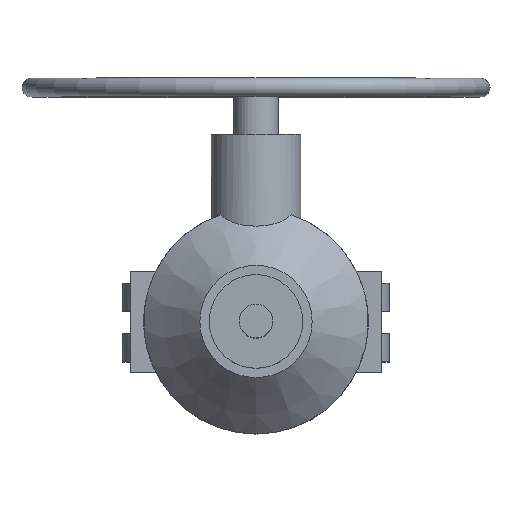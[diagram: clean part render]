
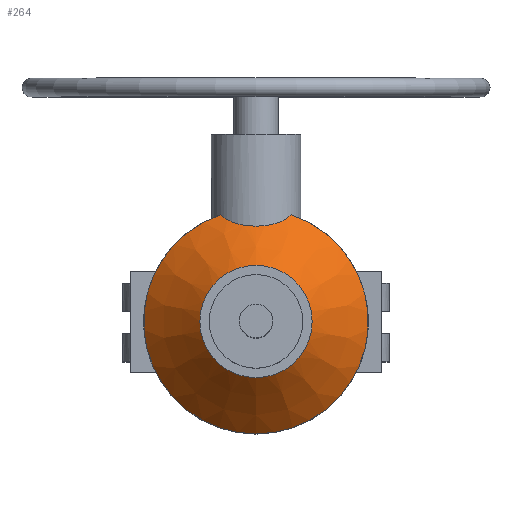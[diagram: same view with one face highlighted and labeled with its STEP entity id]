
A CAD part, top view. The second image highlights one B-rep face of the part: STEP entity #264.
In plain terms, the highlighted conical face has half-angle 45 degrees and reference radius 45 mm.
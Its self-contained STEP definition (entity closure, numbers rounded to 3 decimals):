
#264=ADVANCED_FACE('',(#1300,#1302),#1304,.T.);
#1300=FACE_BOUND('',#1301,.T.);
#1301=EDGE_LOOP('',(#2153,#2154,#2155,#2156));
#1302=FACE_OUTER_BOUND('',#1303,.T.);
#1303=EDGE_LOOP('',(#2157));
#1304=CONICAL_SURFACE('',#1305,45.,0.785);
#1305=AXIS2_PLACEMENT_3D('',#1306,#1307,#1308);
#1306=CARTESIAN_POINT('',(0.,0.,345.));
#1307=DIRECTION('',(0.,0.,-1.));
#1308=DIRECTION('',(0.,-1.,0.));
#2153=ORIENTED_EDGE('',*,*,#2664,.F.);
#2154=ORIENTED_EDGE('',*,*,#2665,.F.);
#2155=ORIENTED_EDGE('',*,*,#2666,.F.);
#2156=ORIENTED_EDGE('',*,*,#2667,.F.);
#2157=ORIENTED_EDGE('',*,*,#2649,.T.);
#2649=EDGE_CURVE('',#2965,#2965,#2966,.T.);
#2664=EDGE_CURVE('',#2991,#2992,#2993,.F.);
#2665=EDGE_CURVE('',#2994,#2991,#2995,.F.);
#2666=EDGE_CURVE('',#2996,#2994,#2997,.T.);
#2667=EDGE_CURVE('',#2992,#2996,#2998,.T.);
#2965=VERTEX_POINT('',#3544);
#2966=CIRCLE('',#3545,30.);
#2991=VERTEX_POINT('',#3603);
#2992=VERTEX_POINT('',#3604);
#2993=B_SPLINE_CURVE_WITH_KNOTS('',3,
(#3605,#3606,#3607,#3608,#3609,#3610,#3611,#3612,#3613,#3614,#3615,#3616,#3617,#3618,
#3619,#3620,#3621,#3622,#3623,#3624,#3625,#3626,#3627,#3628,#3629,#3630,#3631,#3632,
#3633,#3634,#3635,#3636,#3637,#3638,#3639,#3640,#3641,#3642,#3643,#3644,#3645,#3646,
#3647,#3648),
.UNSPECIFIED.,.F.,.F.,
(4,1,1,1,1,1,1,1,1,1,1,1,1,1,1,1,1,1,1,1,1,1,1,1,1,1,1,1,1,1,1,1,1,1,1,1,1,1,1,1,
1,4),
(0.,0.02,0.041,0.061,0.082,
0.102,0.122,0.143,0.163,0.183,
0.204,0.224,0.245,0.266,0.287,
0.308,0.329,0.351,0.375,0.401,
0.441,0.481,0.521,0.551,0.581,
0.621,0.661,0.701,0.735,0.766,
0.794,0.814,0.834,0.853,0.873,
0.892,0.91,0.929,0.947,0.965,
0.982,1.),
.UNSPECIFIED.);
#2994=VERTEX_POINT('',#3649);
#2995=B_SPLINE_CURVE_WITH_KNOTS('',3,
(#3650,#3651,#3652,#3653,#3654,#3655,#3656,#3657,#3658,#3659,#3660,#3661,#3662,#3663,
#3664,#3665,#3666,#3667,#3668,#3669,#3670,#3671,#3672,#3673,#3674,#3675,#3676,#3677,
#3678,#3679,#3680,#3681,#3682,#3683,#3684,#3685,#3686,#3687,#3688,#3689,#3690,#3691,
#3692),
.UNSPECIFIED.,.F.,.F.,
(4,1,1,1,1,1,1,1,1,1,1,1,1,1,1,1,1,1,1,1,1,1,1,1,1,1,1,1,1,1,1,1,1,1,1,1,1,1,1,1,
4),
(0.,0.024,0.047,0.071,0.095,
0.118,0.145,0.173,0.216,0.258,
0.3,0.337,0.371,0.403,0.43,
0.459,0.501,0.543,0.584,0.62,
0.652,0.681,0.703,0.724,0.744,
0.764,0.783,0.802,0.82,0.838,
0.855,0.871,0.887,0.903,0.918,
0.932,0.946,0.96,0.974,0.987,
1.),
.UNSPECIFIED.);
#2996=VERTEX_POINT('',#3693);
#2997=CIRCLE('',#3694,60.);
#2998=CIRCLE('',#3698,60.);
#3544=CARTESIAN_POINT('',(0.,-30.,360.));
#3545=AXIS2_PLACEMENT_3D('',#3546,#3547,#3548);
#3546=CARTESIAN_POINT('',(0.,0.,360.));
#3547=DIRECTION('',(0.,0.,-1.));
#3548=DIRECTION('',(0.,-1.,0.));
#3603=CARTESIAN_POINT('',(0.,51.,339.));
#3604=CARTESIAN_POINT('',(18.735,57.,330.));
#3605=CARTESIAN_POINT('',(18.735,57.,330.));
#3606=CARTESIAN_POINT('',(18.653,56.919,330.102));
#3607=CARTESIAN_POINT('',(18.487,56.759,330.306));
#3608=CARTESIAN_POINT('',(18.232,56.523,330.61));
#3609=CARTESIAN_POINT('',(17.97,56.291,330.91));
#3610=CARTESIAN_POINT('',(17.702,56.064,331.208));
#3611=CARTESIAN_POINT('',(17.428,55.841,331.502));
#3612=CARTESIAN_POINT('',(17.147,55.623,331.794));
#3613=CARTESIAN_POINT('',(16.859,55.409,332.083));
#3614=CARTESIAN_POINT('',(16.564,55.199,332.369));
#3615=CARTESIAN_POINT('',(16.262,54.994,332.652));
#3616=CARTESIAN_POINT('',(15.953,54.793,332.932));
#3617=CARTESIAN_POINT('',(15.636,54.596,333.21));
#3618=CARTESIAN_POINT('',(15.31,54.403,333.484));
#3619=CARTESIAN_POINT('',(14.976,54.214,333.756));
#3620=CARTESIAN_POINT('',(14.633,54.029,334.025));
#3621=CARTESIAN_POINT('',(14.281,53.848,334.291));
#3622=CARTESIAN_POINT('',(13.919,53.672,334.553));
#3623=CARTESIAN_POINT('',(13.534,53.493,334.822));
#3624=CARTESIAN_POINT('',(13.109,53.306,335.106));
#3625=CARTESIAN_POINT('',(12.567,53.083,335.451));
#3626=CARTESIAN_POINT('',(11.915,52.835,335.84));
#3627=CARTESIAN_POINT('',(11.159,52.577,336.254));
#3628=CARTESIAN_POINT('',(10.444,52.357,336.613));
#3629=CARTESIAN_POINT('',(9.777,52.171,336.922));
#3630=CARTESIAN_POINT('',(9.098,51.998,337.213));
#3631=CARTESIAN_POINT('',(8.34,51.825,337.51));
#3632=CARTESIAN_POINT('',(7.502,51.657,337.803));
#3633=CARTESIAN_POINT('',(6.695,51.517,338.052));
#3634=CARTESIAN_POINT('',(5.942,51.403,338.257));
#3635=CARTESIAN_POINT('',(5.267,51.314,338.418));
#3636=CARTESIAN_POINT('',(4.687,51.247,338.54));
#3637=CARTESIAN_POINT('',(4.184,51.196,338.634));
#3638=CARTESIAN_POINT('',(3.741,51.156,338.708));
#3639=CARTESIAN_POINT('',(3.304,51.121,338.773));
#3640=CARTESIAN_POINT('',(2.873,51.091,338.829));
#3641=CARTESIAN_POINT('',(2.447,51.066,338.876));
#3642=CARTESIAN_POINT('',(2.028,51.045,338.915));
#3643=CARTESIAN_POINT('',(1.614,51.028,338.947));
#3644=CARTESIAN_POINT('',(1.206,51.015,338.971));
#3645=CARTESIAN_POINT('',(0.8,51.006,338.988));
#3646=CARTESIAN_POINT('',(0.399,51.001,338.998));
#3647=CARTESIAN_POINT('',(0.133,51.,339.));
#3648=CARTESIAN_POINT('',(0.,51.,339.));
#3649=CARTESIAN_POINT('',(-18.735,57.,330.));
#3650=CARTESIAN_POINT('',(0.,51.,339.));
#3651=CARTESIAN_POINT('',(-0.179,51.,339.));
#3652=CARTESIAN_POINT('',(-0.536,51.002,338.996));
#3653=CARTESIAN_POINT('',(-1.071,51.012,338.978));
#3654=CARTESIAN_POINT('',(-1.604,51.027,338.948));
#3655=CARTESIAN_POINT('',(-2.137,51.05,338.907));
#3656=CARTESIAN_POINT('',(-2.688,51.079,338.851));
#3657=CARTESIAN_POINT('',(-3.277,51.118,338.778));
#3658=CARTESIAN_POINT('',(-4.,51.177,338.669));
#3659=CARTESIAN_POINT('',(-4.836,51.261,338.514));
#3660=CARTESIAN_POINT('',(-5.759,51.376,338.305));
#3661=CARTESIAN_POINT('',(-6.634,51.506,338.071));
#3662=CARTESIAN_POINT('',(-7.442,51.647,337.822));
#3663=CARTESIAN_POINT('',(-8.165,51.789,337.572));
#3664=CARTESIAN_POINT('',(-8.806,51.93,337.329));
#3665=CARTESIAN_POINT('',(-9.401,52.074,337.085));
#3666=CARTESIAN_POINT('',(-10.056,52.246,336.797));
#3667=CARTESIAN_POINT('',(-10.798,52.462,336.44));
#3668=CARTESIAN_POINT('',(-11.601,52.724,336.016));
#3669=CARTESIAN_POINT('',(-12.342,52.994,335.589));
#3670=CARTESIAN_POINT('',(-13.005,53.261,335.175));
#3671=CARTESIAN_POINT('',(-13.579,53.512,334.793));
#3672=CARTESIAN_POINT('',(-14.055,53.737,334.456));
#3673=CARTESIAN_POINT('',(-14.457,53.938,334.159));
#3674=CARTESIAN_POINT('',(-14.801,54.119,333.894));
#3675=CARTESIAN_POINT('',(-15.133,54.302,333.63));
#3676=CARTESIAN_POINT('',(-15.451,54.485,333.367));
#3677=CARTESIAN_POINT('',(-15.755,54.669,333.106));
#3678=CARTESIAN_POINT('',(-16.044,54.851,332.851));
#3679=CARTESIAN_POINT('',(-16.318,55.032,332.6));
#3680=CARTESIAN_POINT('',(-16.577,55.209,332.356));
#3681=CARTESIAN_POINT('',(-16.823,55.384,332.118));
#3682=CARTESIAN_POINT('',(-17.055,55.554,331.887));
#3683=CARTESIAN_POINT('',(-17.276,55.723,331.661));
#3684=CARTESIAN_POINT('',(-17.486,55.888,331.44));
#3685=CARTESIAN_POINT('',(-17.688,56.053,331.223));
#3686=CARTESIAN_POINT('',(-17.88,56.214,331.011));
#3687=CARTESIAN_POINT('',(-18.064,56.374,330.803));
#3688=CARTESIAN_POINT('',(-18.24,56.532,330.599));
#3689=CARTESIAN_POINT('',(-18.411,56.688,330.397));
#3690=CARTESIAN_POINT('',(-18.575,56.844,330.198));
#3691=CARTESIAN_POINT('',(-18.682,56.948,330.066));
#3692=CARTESIAN_POINT('',(-18.735,57.,330.));
#3693=CARTESIAN_POINT('',(0.,-60.,330.));
#3694=AXIS2_PLACEMENT_3D('',#3695,#3696,#3697);
#3695=CARTESIAN_POINT('',(0.,0.,330.));
#3696=DIRECTION('',(0.,0.,-1.));
#3697=DIRECTION('',(0.,-1.,0.));
#3698=AXIS2_PLACEMENT_3D('',#3699,#3700,#3701);
#3699=CARTESIAN_POINT('',(0.,0.,330.));
#3700=DIRECTION('',(0.,0.,-1.));
#3701=DIRECTION('',(0.312,0.95,0.));
